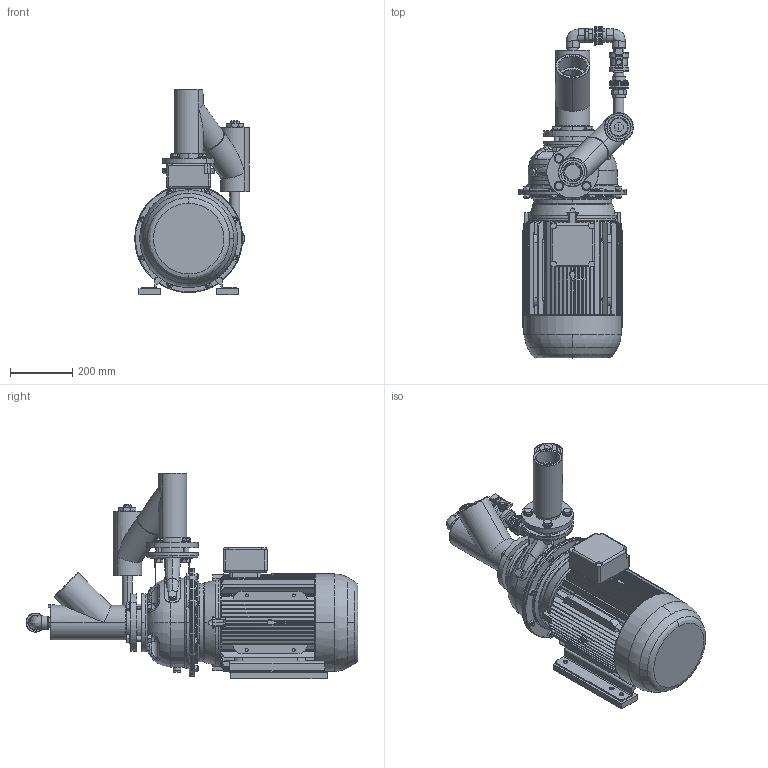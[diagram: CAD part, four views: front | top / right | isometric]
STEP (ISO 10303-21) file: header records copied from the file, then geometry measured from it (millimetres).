
FILE_DESCRIPTION (( 'STEP AP203' ), '1' );
FILE_NAME ('Lowara SHE 50-250 z.a.z handbed. by-pass.STEP', '2011-04-07T10:21:37', ( '' ), ( '' ), 'SwSTEP 2.0', 'SolidWorks 2010', '' );
FILE_SCHEMA (( 'CONFIG_CONTROL_DESIGN' ));
Products named in the file (1): Lowara SHE 50-250 z.a.z handbed. by-pass
Bounding box: 366.4 x 1062.38 x 658.48 mm (x, y, z)
Volume: 50668987.6 mm3; surface area: 3378010.2 mm2
Topology: 63 solids, 69 shells, 2812 faces, 7121 edges, 4463 vertices
Faces by surface type: plane 1081, cylinder 855, cone 486, bspline 366, torus 24
Entity records: 115564 total; most frequent: CARTESIAN_POINT 51288, ORIENTED_EDGE 14062, DIRECTION 12699, EDGE_CURVE 7031, AXIS2_PLACEMENT_3D 5052, VERTEX_POINT 4463, EDGE_LOOP 3092, FACE_OUTER_BOUND 2812
